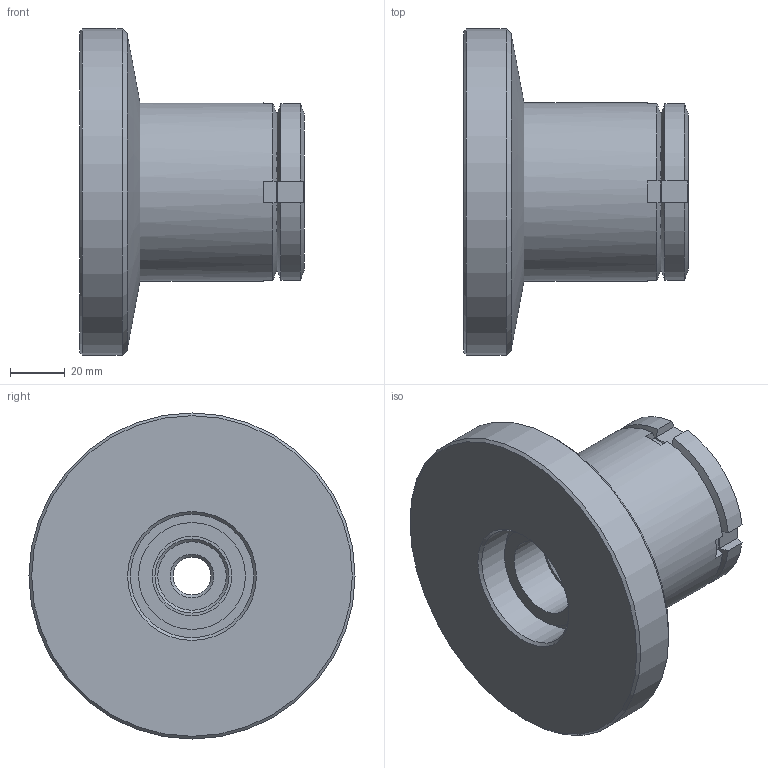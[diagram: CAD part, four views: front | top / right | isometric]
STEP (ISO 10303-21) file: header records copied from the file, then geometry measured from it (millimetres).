
FILE_DESCRIPTION( ( 'STEP AP203' ), '1' );
FILE_NAME( 'C:/Temp/Ganter_Step_05_03_2020/data/3_2/gn360/gn360_st/Levelling set GN 360-119-M16-112-A-ST (0-0).stp', '2020-03-13T05:41:49', ( 'License CC BY-ND 4.0' ), ( 'CADENAS' ), ' ', 'PARTsolutions', ' ' );
FILE_SCHEMA( ( 'CONFIG_CONTROL_DESIGN' ) );
Length unit declared in the file: millimetre
Products named in the file (4): Levelling set GN 360-119-M16-112-A-ST (0-0); _Levelling set GN 360-119-M16-112-A-ST (0-0)-1; _Levelling set GN 360-119-M16-112-A-ST (0-0)-2; _Levelling set GN 360-119-M16-112-A-ST (0-0)-3
Assembly tree (3 placements, depth 2):
  Levelling set GN 360-119-M16-112-A-ST (0-0)
    _Levelling set GN 360-119-M16-112-A-ST (0-0)-1
    _Levelling set GN 360-119-M16-112-A-ST (0-0)-2
    _Levelling set GN 360-119-M16-112-A-ST (0-0)-3
Bounding box: 82 x 119 x 119 mm (x, y, z)
Volume: 370074.2 mm3; surface area: 71536.7 mm2
Topology: 3 solids, 3 shells, 73 faces, 170 edges, 108 vertices
Faces by surface type: plane 39, cylinder 17, cone 14, sphere 2, torus 1
Full cylindrical faces by diameter (mm): 13.835 x1, 25 x1, 29 x1, 32 x1, 38 x1, 39 x1, 43 x1, 43.376 x1, 45 x2, 45.5 x1, 65 x1, 119 x1
Entity records: 2157 total; most frequent: CARTESIAN_POINT 519, DIRECTION 308, ORIENTED_EDGE 270, EDGE_CURVE 135, AXIS2_PLACEMENT_3D 132, EDGE_LOOP 114, VERTEX_POINT 103, FACE_OUTER_BOUND 89
